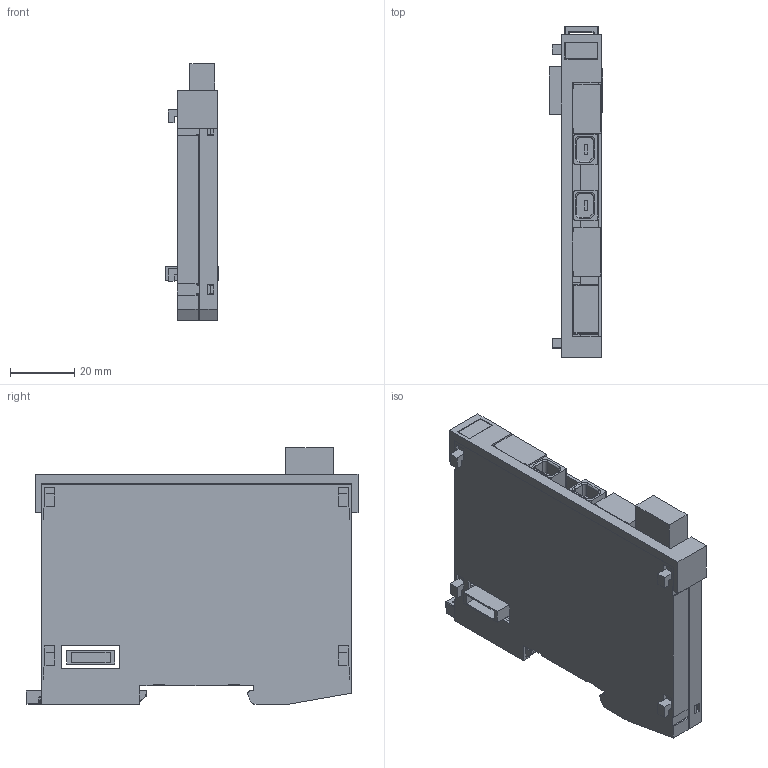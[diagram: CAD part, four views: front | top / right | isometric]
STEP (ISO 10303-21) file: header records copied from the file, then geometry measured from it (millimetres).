
FILE_DESCRIPTION (( 'STEP AP214' ), '1' );
FILE_NAME ('VI021.STEP', '2016-01-27T09:16:08', ( 'SIGMATEK GmbH & Co KG' ), ( 'SIGMATEK GmbH & Co KG' ), 'SwSTEP 2.0', 'SolidWorks 2015', '' );
FILE_SCHEMA (( 'AUTOMOTIVE_DESIGN' ));
Length unit declared in the file: millimetre
Products named in the file (13): Dummy_4080225345 Erni Buchse; Dummy_4080225346 Erni Stift; Dummy_4110251205 4pol.Minicombicon-Grundgehäuse RM3,5 1937512; Dummy_4110262104 4pol.Federkraftstecker f.2reih 1952283; Dummy_4080225387 c-1981080-1-g-3d; Steckerabdeckung_Var 9; LP_VI021; VI021; 4110251342_MF 10-5 MC CABUR_1854510000; S-Dias Schale links_f Suport; S-Dias Schale rechts_f Suport; Schieber_f Suport; S-Dias Rasthaken 20130313
Assembly tree (14 placements, depth 3):
  VI021
    4110251342_MF 10-5 MC CABUR_1854510000
    S-Dias Schale links_f Suport
    S-Dias Schale rechts_f Suport
    Schieber_f Suport
    S-Dias Rasthaken 20130313
    LP_VI021
      Dummy_4080225345 Erni Buchse
      Dummy_4080225346 Erni Stift
      Dummy_4110251205 4pol.Minicombicon-Grundgehäuse RM3,5 1937512
      Dummy_4110262104 4pol.Federkraftstecker f.2reih 1952283
      Dummy_4080225387 c-1981080-1-g-3d  x2
    Steckerabdeckung_Var 9  x2
Bounding box: 16.8 x 103.61 x 80.15 mm (x, y, z)
Volume: 25451.7 mm3; surface area: 43623.4 mm2
Topology: 13 solids, 13 shells, 949 faces, 2729 edges, 1802 vertices
Faces by surface type: plane 668, cylinder 166, bspline 55, cone 28, torus 19, sphere 13
Entity records: 33655 total; most frequent: CARTESIAN_POINT 7709, ORIENTED_EDGE 4920, DIRECTION 3897, EDGE_CURVE 2460, LINE 1771, VECTOR 1771, VERTEX_POINT 1632, AXIS2_PLACEMENT_3D 1063
